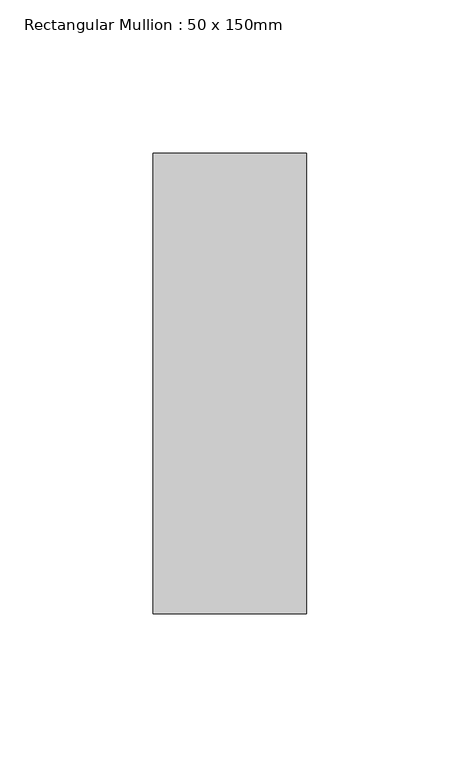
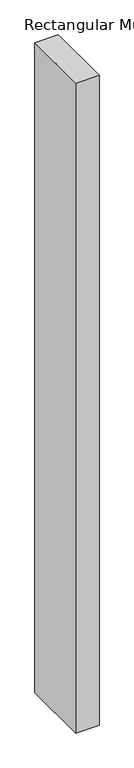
"""IFC4 building model written with IfcOpenShell, lengths in millimetres: member geometry, Rectangular Mullion : 50 x 150mm."""

from ifc_helpers import new_model, si_unit, frame, origin, place, context, project, spatial, polyline, outline, extrude, source, transform, mapped, element, save


def rectangular_mullion_50_x_150mm_8f2a6fad(model_context):
    return source(origin(), model_context, "Body", "SweptSolid", [
        extrude(outline(polyline([(25.0, 75.0), (25.0, -75.0), (-25.0, -75.0), (-25.0, 75.0), (25.0, 75.0)])), frame((0.0, 0.0, -1463.9756751), z_axis=(0.0, 0.0, 1.0), x_axis=(1.0, 0.0, 0.0)), (0.0, 0.0, 1.0), 1463.9756751),
    ])


if __name__ == "__main__":
    model = new_model("IFC4")
    model_context = context("Model", 3, world=origin())
    ifc_project = project(units=[si_unit("LENGTHUNIT", "METRE", prefix="MILLI")], contexts=[model_context])
    site = spatial("IfcSite", under=ifc_project)
    building = spatial("IfcBuilding", under=site)
    placement = place(None, origin())
    rectangular_mullion_50_x_150mm_shape = rectangular_mullion_50_x_150mm_8f2a6fad(model_context)
    element("IfcMember", 1, ObjectType="Rectangular Mullion : 50 x 150mm", at=placement, inside=building, context=model_context, shape_type="MappedRepresentation", body=[
        mapped(rectangular_mullion_50_x_150mm_shape, transform((0.0, 0.0, 0.0), x_axis=(1.0, 0.0, 0.0), y_axis=(0.0, 1.0, 0.0), z_axis=(0.0, 0.0, 1.0))),
    ])
    save(model, "model.ifc")
